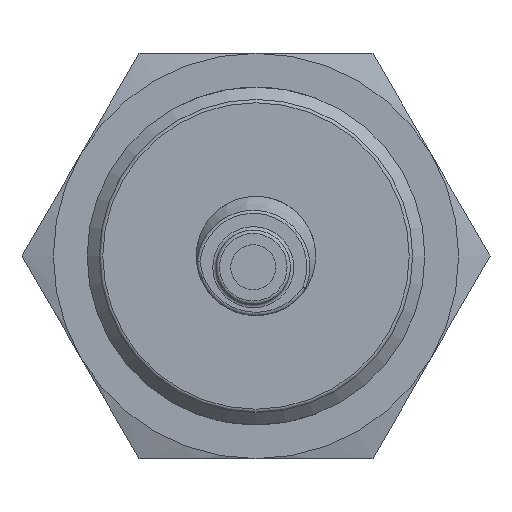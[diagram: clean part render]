
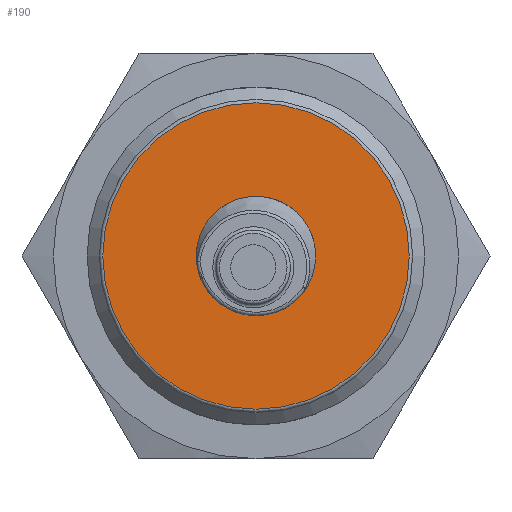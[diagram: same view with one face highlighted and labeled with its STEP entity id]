
A CAD part, left-side view. The second image highlights one B-rep face of the part: STEP entity #190.
In plain terms, the highlighted planar face has unit normal (-1, 0, 0).
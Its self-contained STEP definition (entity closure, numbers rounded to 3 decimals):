
#190 = ADVANCED_FACE( '', ( #262, #263 ), #264, .F. );
#262 = FACE_OUTER_BOUND( '', #392, .T. );
#263 = FACE_BOUND( '', #393, .T. );
#264 = PLANE( '', #394 );
#392 = EDGE_LOOP( '', ( #550 ) );
#393 = EDGE_LOOP( '', ( #551 ) );
#394 = AXIS2_PLACEMENT_3D( '', #552, #553, #554 );
#550 = ORIENTED_EDGE( '', *, *, #839, .F. );
#551 = ORIENTED_EDGE( '', *, *, #840, .T. );
#552 = CARTESIAN_POINT( '', ( 8., 5.3, 0. ) );
#553 = DIRECTION( '', ( 1., 0., 0. ) );
#554 = DIRECTION( '', ( 0., 0., -1. ) );
#839 = EDGE_CURVE( '', #941, #941, #942, .T. );
#840 = EDGE_CURVE( '', #943, #943, #944, .T. );
#941 = VERTEX_POINT( '', #1092 );
#942 = CIRCLE( '', #1093, 13.61 );
#943 = VERTEX_POINT( '', #1094 );
#944 = CIRCLE( '', #1095, 5.3 );
#1092 = CARTESIAN_POINT( '', ( 8., 0., -13.61 ) );
#1093 = AXIS2_PLACEMENT_3D( '', #1439, #1440, #1441 );
#1094 = CARTESIAN_POINT( '', ( 8., 0., -5.3 ) );
#1095 = AXIS2_PLACEMENT_3D( '', #1442, #1443, #1444 );
#1439 = CARTESIAN_POINT( '', ( 8., 0., 0. ) );
#1440 = DIRECTION( '', ( 1., 0., 0. ) );
#1441 = DIRECTION( '', ( 0., 0., -1. ) );
#1442 = CARTESIAN_POINT( '', ( 8., 0., 0. ) );
#1443 = DIRECTION( '', ( 1., 0., 0. ) );
#1444 = DIRECTION( '', ( 0., 0., -1. ) );
